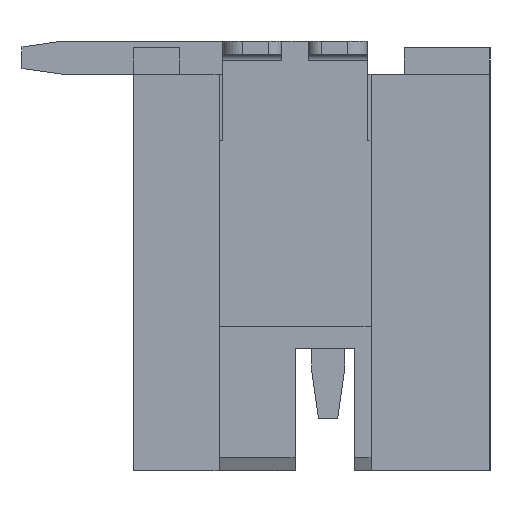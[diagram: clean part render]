
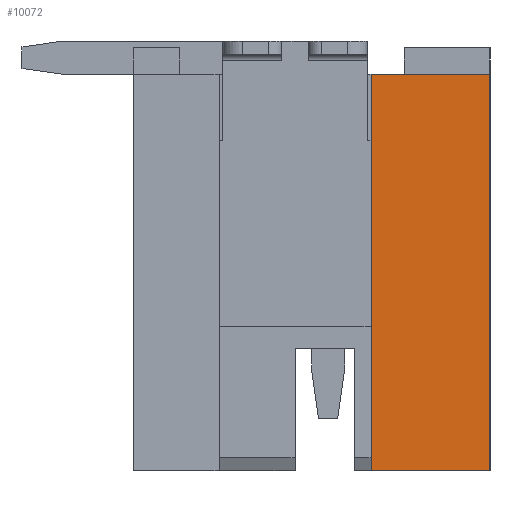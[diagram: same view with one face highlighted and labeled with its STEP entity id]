
A CAD part, left-side view. The second image highlights one B-rep face of the part: STEP entity #10072.
In plain terms, the highlighted planar face has unit normal (-1, 0, 0).
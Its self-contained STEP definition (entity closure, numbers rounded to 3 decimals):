
#18 = LINE ( 'NONE', #17659, #3708 ) ;
#93 = CARTESIAN_POINT ( 'NONE',  ( -121.165, 9.095, -6.03 ) ) ;
#1253 = VECTOR ( 'NONE', #6628, 1000. ) ;
#1416 = DIRECTION ( 'NONE',  ( 0., 0., 1. ) ) ;
#1834 = DIRECTION ( 'NONE',  ( 0., 1., 0. ) ) ;
#2154 = PLANE ( 'NONE',  #9655 ) ;
#2197 = LINE ( 'NONE', #3604, #1253 ) ;
#3005 = EDGE_CURVE ( 'NONE', #9578, #4847, #2197, .T. ) ;
#3413 = VECTOR ( 'NONE', #1834, 1000. ) ;
#3553 = LINE ( 'NONE', #7088, #17157 ) ;
#3604 = CARTESIAN_POINT ( 'NONE',  ( -121.165, 7.286, 0.402 ) ) ;
#3708 = VECTOR ( 'NONE', #1416, 1000. ) ;
#4847 = VERTEX_POINT ( 'NONE', #17488 ) ;
#5602 = FACE_OUTER_BOUND ( 'NONE', #10643, .T. ) ;
#6079 = EDGE_CURVE ( 'NONE', #16980, #19167, #18, .T. ) ;
#6628 = DIRECTION ( 'NONE',  ( 0., 0., -1. ) ) ;
#7088 = CARTESIAN_POINT ( 'NONE',  ( -121.165, 9.095, -6.03 ) ) ;
#8591 = DIRECTION ( 'NONE',  ( 0., -1., 0. ) ) ;
#8704 = CARTESIAN_POINT ( 'NONE',  ( -121.165, 7.286, 0. ) ) ;
#9578 = VERTEX_POINT ( 'NONE', #10300 ) ;
#9655 = AXIS2_PLACEMENT_3D ( 'NONE', #8704, #18745, #15283 ) ;
#9795 = ORIENTED_EDGE ( 'NONE', *, *, #18791, .T. ) ;
#10072 = ADVANCED_FACE ( 'NONE', ( #5602 ), #2154, .F. ) ;
#10300 = CARTESIAN_POINT ( 'NONE',  ( -121.165, 7.286, 0. ) ) ;
#10643 = EDGE_LOOP ( 'NONE', ( #20871, #13749, #21251, #9795 ) ) ;
#11798 = CARTESIAN_POINT ( 'NONE',  ( -121.165, 9.095, 0. ) ) ;
#11935 = LINE ( 'NONE', #14854, #3413 ) ;
#13749 = ORIENTED_EDGE ( 'NONE', *, *, #18689, .T. ) ;
#14854 = CARTESIAN_POINT ( 'NONE',  ( -121.165, 7.286, 0. ) ) ;
#15283 = DIRECTION ( 'NONE',  ( 0., 1., 0. ) ) ;
#16980 = VERTEX_POINT ( 'NONE', #93 ) ;
#17157 = VECTOR ( 'NONE', #8591, 1000. ) ;
#17488 = CARTESIAN_POINT ( 'NONE',  ( -121.165, 7.286, -6.03 ) ) ;
#17659 = CARTESIAN_POINT ( 'NONE',  ( -121.165, 9.095, -6.03 ) ) ;
#18689 = EDGE_CURVE ( 'NONE', #9578, #19167, #11935, .T. ) ;
#18745 = DIRECTION ( 'NONE',  ( 1., 0., 0. ) ) ;
#18791 = EDGE_CURVE ( 'NONE', #16980, #4847, #3553, .T. ) ;
#19167 = VERTEX_POINT ( 'NONE', #11798 ) ;
#20871 = ORIENTED_EDGE ( 'NONE', *, *, #3005, .F. ) ;
#21251 = ORIENTED_EDGE ( 'NONE', *, *, #6079, .F. ) ;
